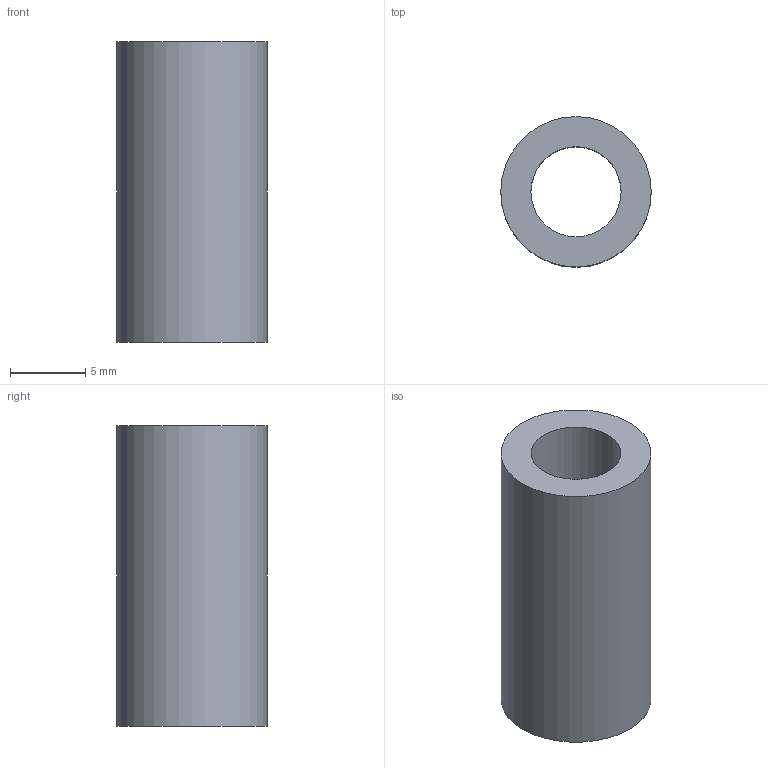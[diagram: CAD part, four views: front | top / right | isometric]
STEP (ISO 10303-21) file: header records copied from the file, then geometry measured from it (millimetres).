
FILE_DESCRIPTION(('Open CASCADE Model'),'2;1');
FILE_NAME('Open CASCADE Shape Model','2026-10-28T05:15:08',('Author'),( 'Open CASCADE'),'Open CASCADE STEP processor 7.8','Open CASCADE 7.8' ,'Unknown');
FILE_SCHEMA(('AUTOMOTIVE_DESIGN { 1 0 10303 214 1 1 1 1 }'));
Length unit declared in the file: millimetre
Products named in the file (1): Open CASCADE STEP translator 7.8 5
Bounding box: 10 x 10 x 20 mm (x, y, z)
Volume: 1005.3 mm3; surface area: 1105.8 mm2
Topology: 1 solids, 1 shells, 4 faces, 6 edges, 4 vertices
Faces by surface type: cylinder 2, plane 2
Full cylindrical faces by diameter (mm): 6 x1, 10 x1
Entity records: 186 total; most frequent: DIRECTION 32, CARTESIAN_POINT 27, ORIENTED_EDGE 12, PCURVE 12, DEFINITIONAL_REPRESENTATION 12, LINE 10, VECTOR 10, AXIS2_PLACEMENT_3D 9
